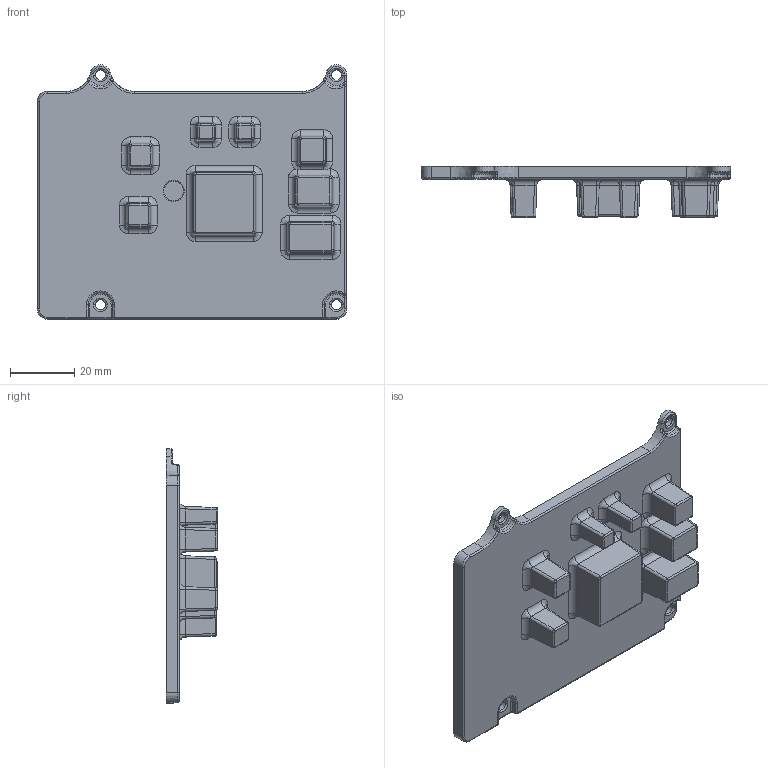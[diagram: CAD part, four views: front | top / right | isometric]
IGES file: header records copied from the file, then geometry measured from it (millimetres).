
Start section:  PTC IGES file: cu_153901-02.igs
Global section: file name: cu_153901-02.igs; native system: Creo Parametric by Parametric Technology Corporation; preprocessor: 2014000; author: jbuhisan; organization: Unknown; date: 20150925.113857; units: inch
Bounding box: 96.52 x 16.01 x 79.41 mm (x, y, z)
Surface area: 18313.7 mm2 (no closed solid volume)
Topology: 0 solids, 0 shells, 306 faces, 1382 edges, 1382 vertices
Faces by surface type: revolution 174, bspline 132
